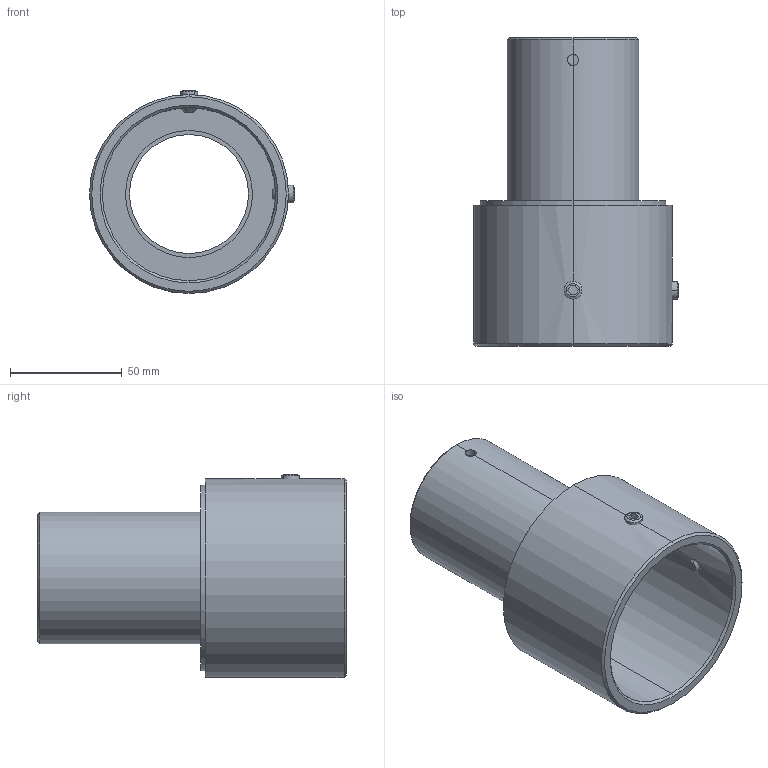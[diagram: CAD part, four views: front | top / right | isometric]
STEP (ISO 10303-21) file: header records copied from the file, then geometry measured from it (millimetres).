
FILE_DESCRIPTION (( 'STEP AP203' ), '1' );
FILE_NAME ('7660.STEP', '2020-07-10T12:16:32', ( '' ), ( '' ), 'SwSTEP 2.0', 'SolidWorks 2019', '' );
FILE_SCHEMA (( 'CONFIG_CONTROL_DESIGN' ));
Length unit declared in the file: millimetre
Products named in the file (5): Rura 60,3x53,2x2,9x78_Kr｢tka; WKR DOCIS M8x_rs_WKR DOC M8x10_rs; 7660; Blacha 5x83; Rura 89x77,5x5.8x63
Assembly tree (5 placements, depth 2):
  7660
    Rura 89x77,5x5.8x63
    Blacha 5x83
    Rura 60,3x53,2x2,9x78_Kr｢tka
    WKR DOCIS M8x_rs_WKR DOC M8x10_rs  x2
Bounding box: 91.68 x 138 x 90.82 mm (x, y, z)
Volume: 145897 mm3; surface area: 72722.4 mm2
Topology: 5 solids, 5 shells, 68 faces, 158 edges, 100 vertices
Faces by surface type: cylinder 26, plane 26, cone 16
Entity records: 2463 total; most frequent: CARTESIAN_POINT 659, DIRECTION 276, ORIENTED_EDGE 252, EDGE_CURVE 126, AXIS2_PLACEMENT_3D 109, VERTEX_POINT 80, EDGE_LOOP 64, LINE 58
